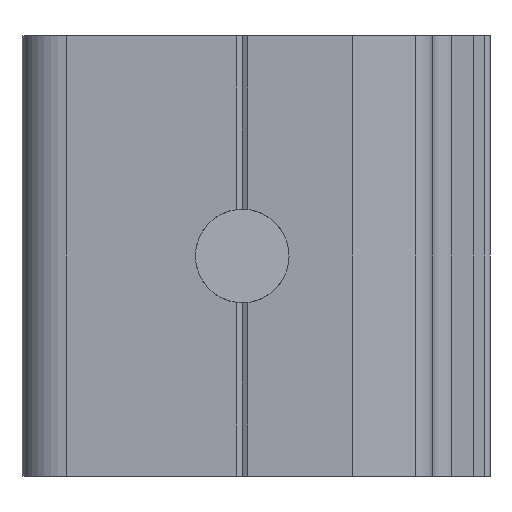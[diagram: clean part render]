
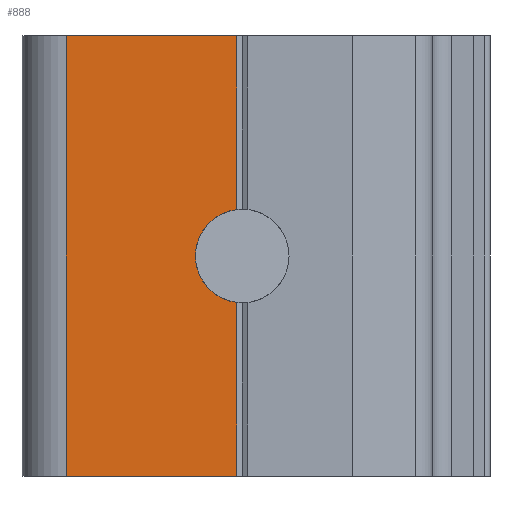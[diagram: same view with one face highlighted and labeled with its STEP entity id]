
A CAD part, front view. The second image highlights one B-rep face of the part: STEP entity #888.
In plain terms, the highlighted planar face has unit normal (0, -1, 0).
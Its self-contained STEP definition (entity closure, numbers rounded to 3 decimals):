
#17=PLANE('',#962);
#48=FACE_OUTER_BOUND('',#93,.T.);
#93=EDGE_LOOP('',(#609,#610,#611,#612,#613,#614));
#148=LINE('',#1337,#241);
#149=LINE('',#1339,#242);
#150=LINE('',#1341,#243);
#151=LINE('',#1343,#244);
#152=LINE('',#1344,#245);
#241=VECTOR('',#1066,10.);
#242=VECTOR('',#1067,10.);
#243=VECTOR('',#1068,10.);
#244=VECTOR('',#1069,10.);
#245=VECTOR('',#1070,10.);
#336=CIRCLE('',#958,4.25);
#374=VERTEX_POINT('',#1326);
#375=VERTEX_POINT('',#1328);
#378=VERTEX_POINT('',#1336);
#379=VERTEX_POINT('',#1338);
#380=VERTEX_POINT('',#1340);
#381=VERTEX_POINT('',#1342);
#467=EDGE_CURVE('',#375,#374,#336,.T.);
#471=EDGE_CURVE('',#374,#378,#148,.T.);
#472=EDGE_CURVE('',#378,#379,#149,.T.);
#473=EDGE_CURVE('',#380,#379,#150,.T.);
#474=EDGE_CURVE('',#381,#380,#151,.T.);
#475=EDGE_CURVE('',#381,#375,#152,.T.);
#609=ORIENTED_EDGE('',*,*,#467,.T.);
#610=ORIENTED_EDGE('',*,*,#471,.T.);
#611=ORIENTED_EDGE('',*,*,#472,.T.);
#612=ORIENTED_EDGE('',*,*,#473,.F.);
#613=ORIENTED_EDGE('',*,*,#474,.F.);
#614=ORIENTED_EDGE('',*,*,#475,.T.);
#888=ADVANCED_FACE('',(#48),#17,.T.);
#958=AXIS2_PLACEMENT_3D('',#1329,#1056,#1057);
#962=AXIS2_PLACEMENT_3D('',#1335,#1064,#1065);
#1056=DIRECTION('center_axis',(0.,1.,0.));
#1057=DIRECTION('ref_axis',(-1.,0.,0.));
#1064=DIRECTION('center_axis',(0.,-1.,0.));
#1065=DIRECTION('ref_axis',(0.,0.,-1.));
#1066=DIRECTION('',(0.,0.,1.));
#1067=DIRECTION('',(-1.,0.,0.));
#1068=DIRECTION('',(0.,0.,1.));
#1069=DIRECTION('',(-1.,0.,0.));
#1070=DIRECTION('',(0.,0.,1.));
#1326=CARTESIAN_POINT('',(-167.594,-218.607,24.218));
#1328=CARTESIAN_POINT('',(-167.594,-218.607,15.782));
#1329=CARTESIAN_POINT('Origin',(-167.074,-218.607,20.));
#1335=CARTESIAN_POINT('Origin',(-171.074,-218.607,0.));
#1336=CARTESIAN_POINT('',(-167.594,-218.607,40.));
#1337=CARTESIAN_POINT('',(-167.594,-218.607,0.));
#1338=CARTESIAN_POINT('',(-183.074,-218.607,40.));
#1339=CARTESIAN_POINT('',(-171.074,-218.607,40.));
#1340=CARTESIAN_POINT('',(-183.074,-218.607,0.));
#1341=CARTESIAN_POINT('',(-183.074,-218.607,0.));
#1342=CARTESIAN_POINT('',(-167.594,-218.607,0.));
#1343=CARTESIAN_POINT('',(-167.594,-218.607,0.));
#1344=CARTESIAN_POINT('',(-167.594,-218.607,0.));
